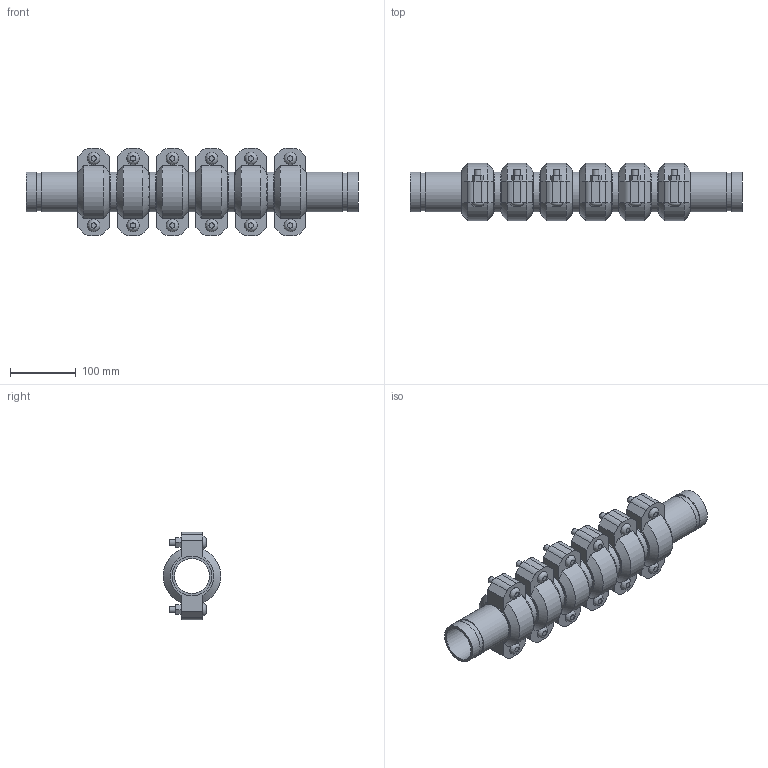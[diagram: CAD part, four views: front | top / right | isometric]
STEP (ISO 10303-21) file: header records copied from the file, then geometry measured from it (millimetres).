
FILE_DESCRIPTION(/* description */ ('VIC SS EXPANSION JOINT 6 COUPLINGS NEUTRAL STYLE 155P (OGS) (POTABLE WATER) ','CAx-IF Rec.Pracs.---Representation and Presentation of Product Manufacturing Information (PMI)---4.0---2014-10-13'),/* implementation_level */ '2;1');
FILE_NAME(/* name */ 'C:\Users\kkamble\AppData\Roaming\Autodesk\ApplicationPlugins\Victaulic.Temp\A292\Victaulic_SS_Expansion Joint_Neutral_6 Couplings_Style 155P (OGS)-Potable Water_6 Coup_Neut_2 (50).stp',/* time_stamp */ '2021-07-16T16:35:52+05:00',/* author */ ('kkamble'),/* organization */ ('Victaulic'),/* preprocessor_version */ 'ST-DEVELOPER v17.2',/* originating_system */ 'Autodesk Inventor 2019',/* authorisation */ '');
FILE_SCHEMA (('AP242_MANAGED_MODEL_BASED_3D_ENGINEERING_MIM_LF { 1 0 10303 442 1 1 4 }'));
Length unit declared in the file: inch
Products named in the file (4): 155-02.0; Nipple-02.0; Nipple-02.0_1; 075-02.0
Assembly tree (13 placements, depth 2):
  155-02.0
    Nipple-02.0  x2
    Nipple-02.0_1  x5
    075-02.0  x6
Bounding box: 503.17 x 87.12 x 132.59 mm (x, y, z)
Volume: 1511498.9 mm3; surface area: 429107 mm2
Topology: 13 solids, 25 shells, 426 faces, 1008 edges, 708 vertices
Faces by surface type: plane 258, cylinder 132, cone 24, bspline 12
Full cylindrical faces by diameter (mm): 9.525 x24, 11.43 x12, 52.502 x7, 53.975 x6, 57.15 x14, 60.325 x33
Entity records: 2817 total; most frequent: CARTESIAN_POINT 497, DIRECTION 469, ORIENTED_EDGE 386, EDGE_CURVE 193, AXIS2_PLACEMENT_3D 188, VERTEX_POINT 138, EDGE_LOOP 107, LINE 93
